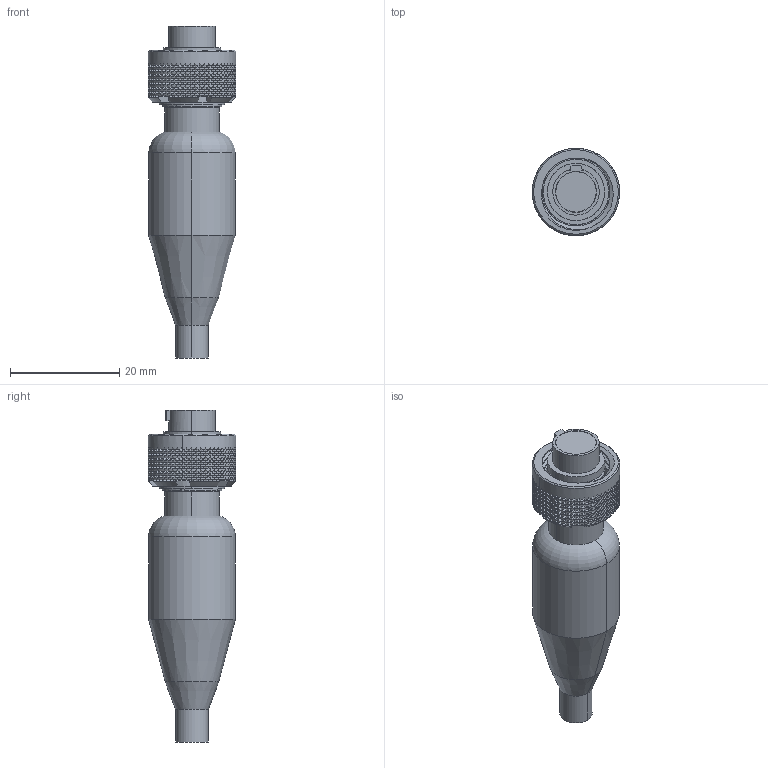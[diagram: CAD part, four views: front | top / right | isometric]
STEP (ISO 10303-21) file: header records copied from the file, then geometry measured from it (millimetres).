
FILE_DESCRIPTION (( 'STEP AP203' ), '1' );
FILE_NAME ('Mini Connector with straight mould.STEP', '2020-07-30T10:30:19', ( '' ), ( '' ), 'SwSTEP 2.0', 'SolidWorks 2018', '' );
FILE_SCHEMA (( 'CONFIG_CONTROL_DESIGN' ));
Length unit declared in the file: millimetre
Products named in the file (9): Part1^CRE-MC1783-MGA; CRE-MC1764-MDT; Retaining Ring XVSM-10; CRE-MC1783-MGA; O-RING 8.5 x 1; Mini Connector with straight mould; Straight Mould CORRECT; CRE-MC1763-MDT; CRE-MC1768-MDT
Assembly tree (9 placements, depth 3):
  Part1^CRE-MC1783-MGA
  Mini Connector with straight mould
    CRE-MC1783-MGA
      CRE-MC1763-MDT
      CRE-MC1764-MDT
      CRE-MC1768-MDT  x2
      Retaining Ring XVSM-10
      O-RING 8.5 x 1  x2
    Straight Mould CORRECT
Bounding box: 16 x 16 x 60.81 mm (x, y, z)
Volume: 8083 mm3; surface area: 4897.9 mm2
Topology: 8 solids, 8 shells, 3787 faces, 8770 edges, 5814 vertices
Faces by surface type: plane 3703, cylinder 57, cone 14, torus 10, bspline 3
Entity records: 106662 total; most frequent: CARTESIAN_POINT 28881, ORIENTED_EDGE 17500, DIRECTION 13261, EDGE_CURVE 8750, VERTEX_POINT 5802, LINE 5257, VECTOR 5257, EDGE_LOOP 4600
